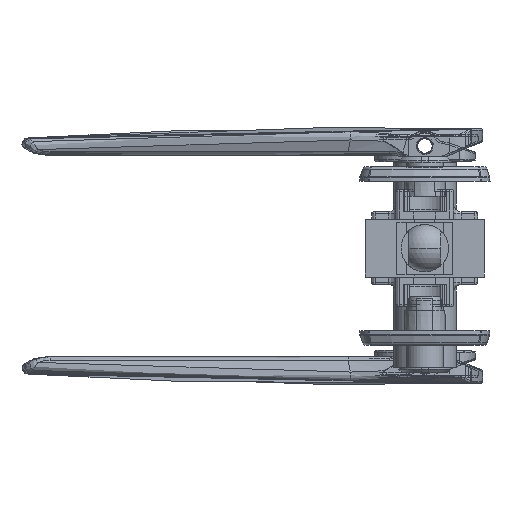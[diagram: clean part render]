
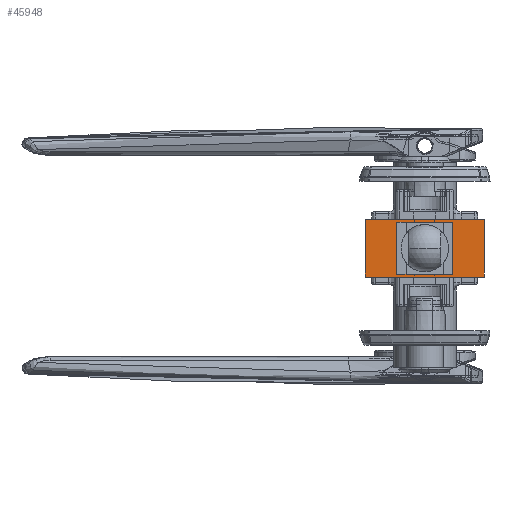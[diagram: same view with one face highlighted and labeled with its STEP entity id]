
A CAD part, front view. The second image highlights one B-rep face of the part: STEP entity #45948.
In plain terms, the highlighted planar face has unit normal (0, -1, 0).
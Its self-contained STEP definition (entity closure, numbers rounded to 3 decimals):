
#219 = AXIS2_PLACEMENT_3D ( 'NONE', #17358, #33454, #41264 ) ;
#224 = VERTEX_POINT ( 'NONE', #19444 ) ;
#360 = ORIENTED_EDGE ( 'NONE', *, *, #31743, .T. ) ;
#4188 = EDGE_CURVE ( 'NONE', #6988, #42410, #4325, .T. ) ;
#4325 = LINE ( 'NONE', #44337, #16032 ) ;
#5265 = FACE_BOUND ( 'NONE', #33947, .T. ) ;
#6571 = ORIENTED_EDGE ( 'NONE', *, *, #10971, .F. ) ;
#6988 = VERTEX_POINT ( 'NONE', #26173 ) ;
#7347 = ORIENTED_EDGE ( 'NONE', *, *, #21783, .F. ) ;
#7402 = DIRECTION ( 'NONE',  ( 1., 0., 0. ) ) ;
#8883 = CARTESIAN_POINT ( 'NONE',  ( 7., -199.25, 6.25 ) ) ;
#8971 = EDGE_CURVE ( 'NONE', #13309, #38845, #24850, .T. ) ;
#9878 = ORIENTED_EDGE ( 'NONE', *, *, #8971, .T. ) ;
#10971 = EDGE_CURVE ( 'NONE', #42410, #53073, #26642, .T. ) ;
#11314 = DIRECTION ( 'NONE',  ( 1., 0., 0. ) ) ;
#13071 = VECTOR ( 'NONE', #33635, 1000. ) ;
#13073 = VECTOR ( 'NONE', #18959, 1000. ) ;
#13309 = VERTEX_POINT ( 'NONE', #35707 ) ;
#14129 = ORIENTED_EDGE ( 'NONE', *, *, #49946, .F. ) ;
#14683 = CARTESIAN_POINT ( 'NONE',  ( 7., -199.25, 6.25 ) ) ;
#14921 = CARTESIAN_POINT ( 'NONE',  ( 16., -199.25, 7.75 ) ) ;
#15594 = LINE ( 'NONE', #48090, #31821 ) ;
#16032 = VECTOR ( 'NONE', #20699, 1000. ) ;
#17085 = FACE_OUTER_BOUND ( 'NONE', #52561, .T. ) ;
#17257 = CARTESIAN_POINT ( 'NONE',  ( 7., -199.25, 6.25 ) ) ;
#17258 = LINE ( 'NONE', #48943, #13071 ) ;
#17358 = CARTESIAN_POINT ( 'NONE',  ( -16., -199.25, 7.75 ) ) ;
#18959 = DIRECTION ( 'NONE',  ( -1., 0., 0. ) ) ;
#19444 = CARTESIAN_POINT ( 'NONE',  ( -7., -199.25, 6.25 ) ) ;
#20003 = EDGE_CURVE ( 'NONE', #53073, #224, #22710, .T. ) ;
#20699 = DIRECTION ( 'NONE',  ( 1., 0., 0. ) ) ;
#21094 = DIRECTION ( 'NONE',  ( 0., 0., -1. ) ) ;
#21580 = CARTESIAN_POINT ( 'NONE',  ( 16., -199.25, 7.75 ) ) ;
#21783 = EDGE_CURVE ( 'NONE', #224, #6988, #17258, .T. ) ;
#21966 = CARTESIAN_POINT ( 'NONE',  ( 7., -199.25, -6.25 ) ) ;
#22710 = LINE ( 'NONE', #14683, #13073 ) ;
#22939 = ORIENTED_EDGE ( 'NONE', *, *, #20003, .F. ) ;
#23486 = VECTOR ( 'NONE', #21094, 1000. ) ;
#23758 = LINE ( 'NONE', #43645, #52204 ) ;
#24850 = LINE ( 'NONE', #29430, #23486 ) ;
#24869 = PLANE ( 'NONE',  #219 ) ;
#26173 = CARTESIAN_POINT ( 'NONE',  ( -7., -199.25, -6.25 ) ) ;
#26642 = LINE ( 'NONE', #17257, #30752 ) ;
#29430 = CARTESIAN_POINT ( 'NONE',  ( -16., -199.25, 7.75 ) ) ;
#30752 = VECTOR ( 'NONE', #42750, 1000. ) ;
#31023 = LINE ( 'NONE', #14921, #36058 ) ;
#31743 = EDGE_CURVE ( 'NONE', #38845, #46489, #23758, .T. ) ;
#31821 = VECTOR ( 'NONE', #11314, 1000. ) ;
#32014 = ORIENTED_EDGE ( 'NONE', *, *, #52775, .F. ) ;
#33454 = DIRECTION ( 'NONE',  ( 0., 1., 0. ) ) ;
#33635 = DIRECTION ( 'NONE',  ( 0., 0., -1. ) ) ;
#33947 = EDGE_LOOP ( 'NONE', ( #7347, #22939, #6571, #36280 ) ) ;
#35707 = CARTESIAN_POINT ( 'NONE',  ( -16., -199.25, 7.75 ) ) ;
#36058 = VECTOR ( 'NONE', #43101, 1000. ) ;
#36280 = ORIENTED_EDGE ( 'NONE', *, *, #4188, .F. ) ;
#38065 = VERTEX_POINT ( 'NONE', #21580 ) ;
#38845 = VERTEX_POINT ( 'NONE', #47405 ) ;
#41264 = DIRECTION ( 'NONE',  ( 0., 0., 1. ) ) ;
#42410 = VERTEX_POINT ( 'NONE', #21966 ) ;
#42750 = DIRECTION ( 'NONE',  ( 0., 0., 1. ) ) ;
#43038 = CARTESIAN_POINT ( 'NONE',  ( 16., -199.25, -7.75 ) ) ;
#43101 = DIRECTION ( 'NONE',  ( 0., 0., -1. ) ) ;
#43645 = CARTESIAN_POINT ( 'NONE',  ( -16., -199.25, -7.75 ) ) ;
#44337 = CARTESIAN_POINT ( 'NONE',  ( -7., -199.25, -6.25 ) ) ;
#45948 = ADVANCED_FACE ( 'NONE', ( #5265, #17085 ), #24869, .F. ) ;
#46489 = VERTEX_POINT ( 'NONE', #43038 ) ;
#47405 = CARTESIAN_POINT ( 'NONE',  ( -16., -199.25, -7.75 ) ) ;
#48090 = CARTESIAN_POINT ( 'NONE',  ( -16., -199.25, 7.75 ) ) ;
#48943 = CARTESIAN_POINT ( 'NONE',  ( -7., -199.25, -6.25 ) ) ;
#49946 = EDGE_CURVE ( 'NONE', #38065, #46489, #31023, .T. ) ;
#52204 = VECTOR ( 'NONE', #7402, 1000. ) ;
#52561 = EDGE_LOOP ( 'NONE', ( #360, #14129, #32014, #9878 ) ) ;
#52775 = EDGE_CURVE ( 'NONE', #13309, #38065, #15594, .T. ) ;
#53073 = VERTEX_POINT ( 'NONE', #8883 ) ;
